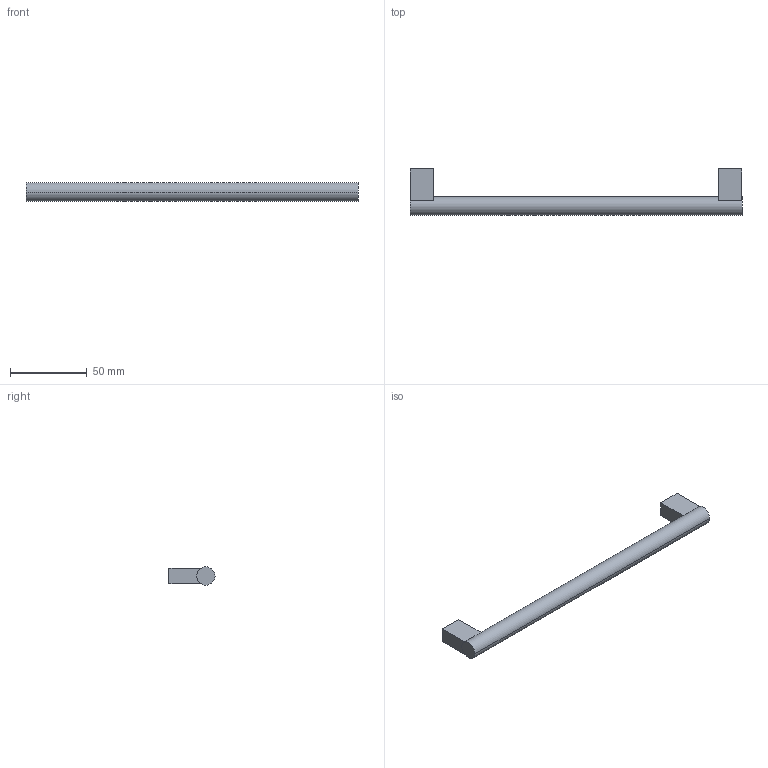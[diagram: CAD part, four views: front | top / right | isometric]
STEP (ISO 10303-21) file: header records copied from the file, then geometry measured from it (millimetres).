
FILE_DESCRIPTION( ( '' ), '1' );
FILE_NAME( 'C:/Documents and Settings/Nikhil/Desktop/Nik/Done/9995500.stp', '2013-10-24T05:50:36', ( '' ), ( '' ), ' ', ' ', ' ' );
FILE_SCHEMA( ( 'automotive_design' ) );
Length unit declared in the file: millimetre
Products named in the file (1): 1
Bounding box: 216 x 30 x 12 mm (x, y, z)
Volume: 29866.5 mm3; surface area: 10508.4 mm2
Topology: 1 solids, 1 shells, 20 faces, 48 edges, 32 vertices
Faces by surface type: plane 14, cylinder 6
Entity records: 1176 total; most frequent: DIRECTION 110, STYLED_ITEM 101, PRESENTATION_STYLE_ASSIGNMENT 101, CARTESIAN_POINT 101, COLOUR_RGB 101, ORIENTED_EDGE 96, EDGE_CURVE 48, CURVE_STYLE 48
